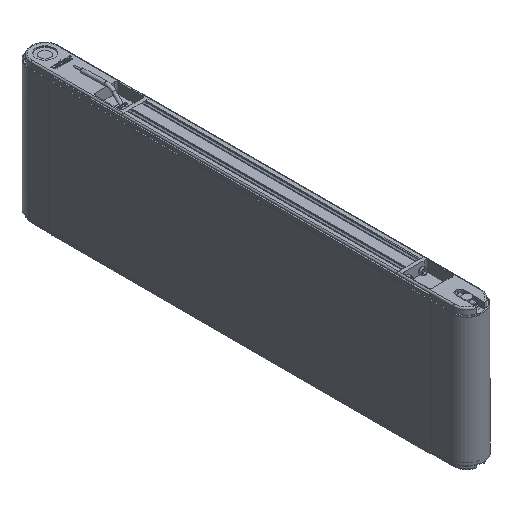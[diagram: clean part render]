
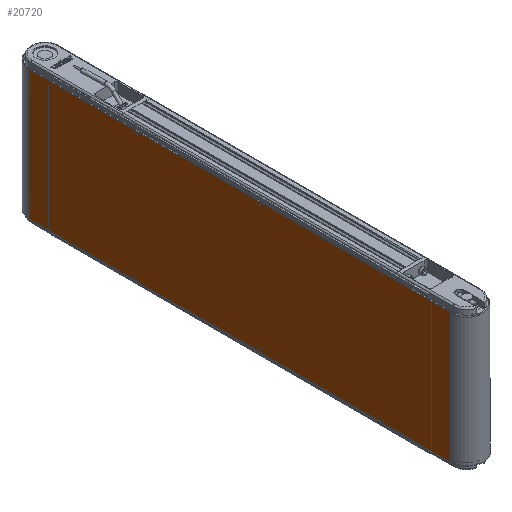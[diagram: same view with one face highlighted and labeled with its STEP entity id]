
A CAD part, isometric view. The second image highlights one B-rep face of the part: STEP entity #20720.
In plain terms, the highlighted planar face has unit normal (-1, 0, 0).
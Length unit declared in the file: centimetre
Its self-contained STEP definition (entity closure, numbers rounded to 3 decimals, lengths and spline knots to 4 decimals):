
#2194=FACE_OUTER_BOUND('',#3336,.T.);
#3336=EDGE_LOOP('',(#13934,#13935,#13936,#13937));
#4746=LINE('',#30543,#6359);
#4747=LINE('',#30548,#6360);
#4749=LINE('',#30552,#6362);
#4750=LINE('',#30553,#6363);
#6359=VECTOR('',#24950,1.);
#6360=VECTOR('',#24955,1.);
#6362=VECTOR('',#24959,1.);
#6363=VECTOR('',#24960,1.);
#8175=VERTEX_POINT('',#30537);
#8177=VERTEX_POINT('',#30541);
#8179=VERTEX_POINT('',#30546);
#8180=VERTEX_POINT('',#30551);
#10404=EDGE_CURVE('',#8175,#8177,#4746,.T.);
#10406=EDGE_CURVE('',#8179,#8177,#4747,.T.);
#10408=EDGE_CURVE('',#8179,#8180,#4749,.T.);
#10409=EDGE_CURVE('',#8180,#8175,#4750,.T.);
#13934=ORIENTED_EDGE('',*,*,#10408,.T.);
#13935=ORIENTED_EDGE('',*,*,#10409,.T.);
#13936=ORIENTED_EDGE('',*,*,#10404,.T.);
#13937=ORIENTED_EDGE('',*,*,#10406,.F.);
#18975=PLANE('',#22137);
#20720=ADVANCED_FACE('',(#2194),#18975,.T.);
#22137=AXIS2_PLACEMENT_3D('',#30550,#24957,#24958);
#24950=DIRECTION('',(0.,1.,0.));
#24955=DIRECTION('',(0.,0.,1.));
#24957=DIRECTION('center_axis',(-1.,0.,0.));
#24958=DIRECTION('ref_axis',(0.,0.,
1.));
#24959=DIRECTION('',(0.,-1.,0.));
#24960=DIRECTION('',(0.,0.,1.));
#30537=CARTESIAN_POINT('',(-2.33,-47.,9.25));
#30541=CARTESIAN_POINT('',(-2.33,13.,9.25));
#30543=CARTESIAN_POINT('',(-2.33,13.,9.25));
#30546=CARTESIAN_POINT('',(-2.33,13.,-9.25));
#30548=CARTESIAN_POINT('',(-2.33,13.,0.));
#30550=CARTESIAN_POINT('Origin',(-2.33,13.,0.));
#30551=CARTESIAN_POINT('',(-2.33,-47.,-9.25));
#30552=CARTESIAN_POINT('',(-2.33,13.,-9.25));
#30553=CARTESIAN_POINT('',(-2.33,-47.,0.));
